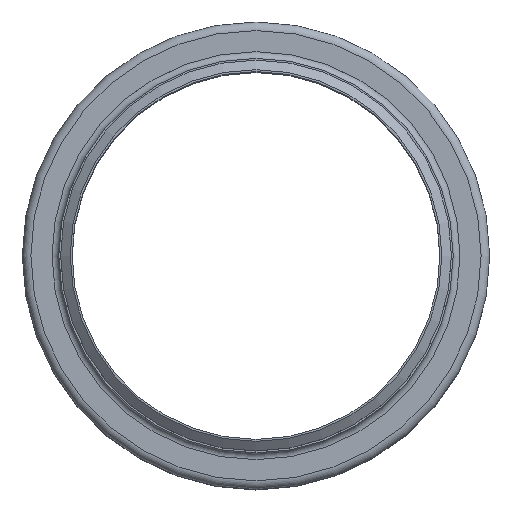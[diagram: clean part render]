
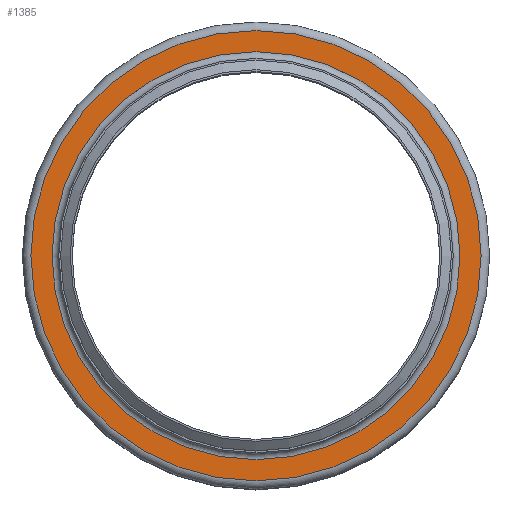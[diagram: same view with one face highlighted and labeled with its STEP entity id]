
A CAD part, top view. The second image highlights one B-rep face of the part: STEP entity #1385.
In plain terms, the highlighted planar face has unit normal (0, 0, 1).
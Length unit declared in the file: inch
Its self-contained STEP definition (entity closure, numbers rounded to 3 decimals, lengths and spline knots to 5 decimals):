
#155=FACE_BOUND('',#416,.T.);
#256=FACE_OUTER_BOUND('',#415,.T.);
#415=EDGE_LOOP('',(#1168));
#416=EDGE_LOOP('',(#1169));
#584=CIRCLE('',#1684,6.655);
#585=CIRCLE('',#1686,7.345);
#703=VERTEX_POINT('',#2631);
#704=VERTEX_POINT('',#2635);
#862=EDGE_CURVE('',#703,#703,#584,.T.);
#863=EDGE_CURVE('',#704,#704,#585,.T.);
#1168=ORIENTED_EDGE('',*,*,#863,.F.);
#1169=ORIENTED_EDGE('',*,*,#862,.T.);
#1284=PLANE('',#1685);
#1385=ADVANCED_FACE('',(#256,#155),#1284,.T.);
#1684=AXIS2_PLACEMENT_3D('',#2633,#2197,#2198);
#1685=AXIS2_PLACEMENT_3D('',#2634,#2199,#2200);
#1686=AXIS2_PLACEMENT_3D('',#2636,#2201,#2202);
#2197=DIRECTION('center_axis',(0.,0.,-1.));
#2198=DIRECTION('ref_axis',(1.,0.,0.));
#2199=DIRECTION('center_axis',(0.,0.,1.));
#2200=DIRECTION('ref_axis',(1.,0.,0.));
#2201=DIRECTION('center_axis',(0.,0.,-1.));
#2202=DIRECTION('ref_axis',(1.,0.,0.));
#2631=CARTESIAN_POINT('',(6.655,0.,-0.22));
#2633=CARTESIAN_POINT('Origin',(0.,0.,-0.22));
#2634=CARTESIAN_POINT('Origin',(0.,7.345,-0.22));
#2635=CARTESIAN_POINT('',(7.345,0.,-0.22));
#2636=CARTESIAN_POINT('Origin',(0.,0.,-0.22));
